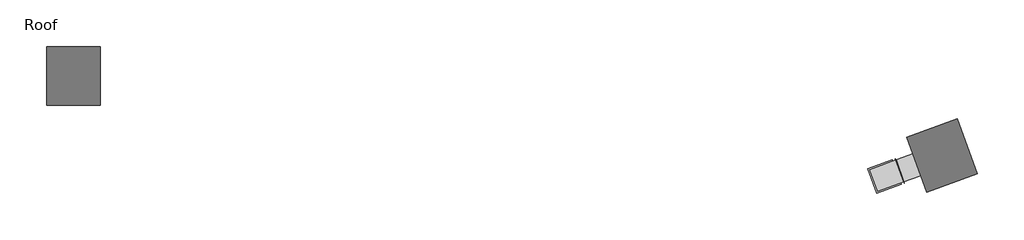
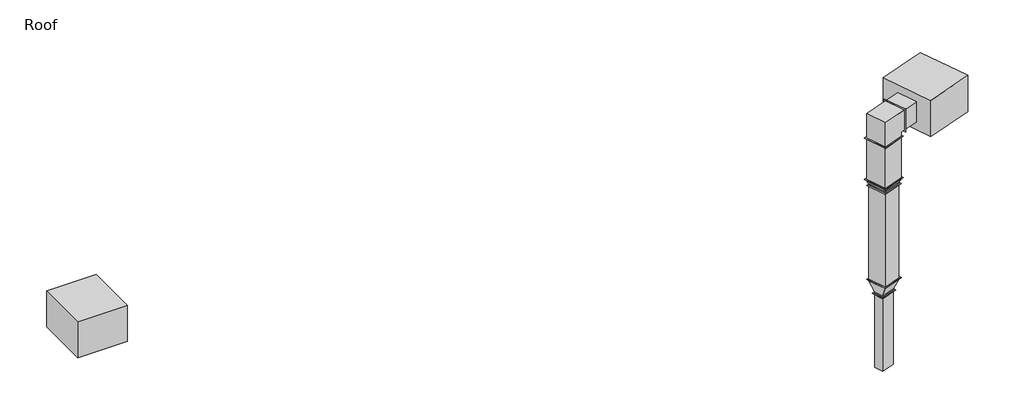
# One storey, incomplete: 4 duct segments, 3 duct fittings, 2 proxies.
"""IFC4 building model written with IfcOpenShell, lengths in millimetres."""

import ifcopenshell
import ifcopenshell.guid

model = None  # the IFC model being written
_history = None  # IfcOwnerHistory: only IFC2X3 demands one
_inside = {}  # id of a spatial element -> (the spatial element, [elements in it])
_under = {}  # id of a project, library or spatial element -> (it, [spatial elements below it])
_declared = {}  # id of a project -> (the project, [libraries it declares])
_typed = {}  # id of a type object -> (the type object, [elements of that type])
_made_of = {}  # id of a material, layer set ... -> (it, [elements and type objects made of it])


def new_model(schema):
    """Start an empty IFC model of exactly this schema.

    Asked for "IFC4X3", IfcOpenShell would pick the latest addendum, in which some entities
    have other attributes; the version numbers below select the first issue.
    IFC2X3 requires an IfcOwnerHistory on every rooted entity: one is made here for all.
    """
    global model, _history
    if schema == "IFC4X3":
        model = ifcopenshell.file(schema_version=(4, 3, 0, 0))
    else:
        model = ifcopenshell.file(schema=schema)
    _inside.clear()
    _under.clear()
    _declared.clear()
    _typed.clear()
    _made_of.clear()
    _history = None
    if model.schema == "IFC2X3":
        org = make("IfcOrganization", Name="unknown")
        user = make(
            "IfcPersonAndOrganization",
            ThePerson=make("IfcPerson", FamilyName="unknown"),
            TheOrganization=org,
        )
        app = make(
            "IfcApplication",
            ApplicationDeveloper=org,
            Version="unknown",
            ApplicationFullName="unknown",
            ApplicationIdentifier="unknown",
        )
        _history = make(
            "IfcOwnerHistory",
            OwningUser=user,
            OwningApplication=app,
            ChangeAction="ADDED",
            CreationDate=0,
        )
    return model


def make(cls, **values):
    """One entity of the class cls with the attributes given. An attribute that is None is left unset."""
    return model.create_entity(
        cls, **{name: value for name, value in values.items() if value is not None}
    )


def rooted(cls, **values):
    """An entity with a GlobalId (a new one), such as an element, a storey or a relation."""
    return make(cls, GlobalId=ifcopenshell.guid.new(), OwnerHistory=_history, **values)


def si_unit(unit_type, name, prefix=None):
    """IfcSIUnit, for example si_unit("LENGTHUNIT", "METRE", prefix="MILLI")."""
    return make("IfcSIUnit", UnitType=unit_type, Prefix=prefix, Name=name)


def assignment(units):
    """IfcUnitAssignment: the units of a project."""
    return None if units is None else make("IfcUnitAssignment", Units=units)


def point(xyz):
    """IfcCartesianPoint."""
    return None if xyz is None else make("IfcCartesianPoint", Coordinates=xyz)


def direction(xyz):
    """IfcDirection."""
    return None if xyz is None else make("IfcDirection", DirectionRatios=xyz)


def frame(location, z_axis=None, x_axis=None):
    """IfcAxis2Placement3D, a coordinate frame: its origin and axes. An axis left out is left unset."""
    return make(
        "IfcAxis2Placement3D",
        Location=point(location),
        Axis=direction(z_axis),
        RefDirection=direction(x_axis),
    )


def origin():
    """The frame at (0, 0, 0) with its axes left unset."""
    return frame((0.0, 0.0, 0.0))


def origin_with_axes():
    """The frame at (0, 0, 0) with the z axis (0, 0, 1) and the x axis (1, 0, 0) written out."""
    return frame((0.0, 0.0, 0.0), z_axis=(0.0, 0.0, 1.0), x_axis=(1.0, 0.0, 0.0))


def place(relative_to, where):
    """IfcLocalPlacement: puts the frame where relative to a parent placement (None: the world)."""
    return make(
        "IfcLocalPlacement", PlacementRelTo=relative_to, RelativePlacement=where
    )


def context(
    kind, dimensions, precision=None, world=None, true_north=None, identifier=None
):
    """IfcGeometricRepresentationContext, for example the 3D "Model" context."""
    return make(
        "IfcGeometricRepresentationContext",
        ContextIdentifier=identifier,
        ContextType=kind,
        CoordinateSpaceDimension=dimensions,
        Precision=precision,
        WorldCoordinateSystem=world,
        TrueNorth=true_north,
    )


def project(units=None, contexts=None):
    """IfcProject with its units and contexts."""
    return rooted(
        "IfcProject",
        Name="project",
        RepresentationContexts=contexts,
        UnitsInContext=assignment(units),
    )


def spatial(cls, under=None, at=None, **own):
    """A site, building, storey or space (cls), placed at a placement, below another one or the project."""
    s = rooted(cls, ObjectPlacement=at, **own)
    if under is not None:
        _under.setdefault(under.id(), (under, []))[1].append(s)
    return s


def polyline(points):
    """IfcPolyline through the points."""
    return make("IfcPolyline", Points=[point(p) for p in points])


def outline(outer, holes=None, kind="AREA"):
    """IfcArbitraryClosedProfileDef: a profile drawn as a closed curve; with holes, ...WithVoids."""
    if holes is None:
        return make("IfcArbitraryClosedProfileDef", ProfileType=kind, OuterCurve=outer)
    return make(
        "IfcArbitraryProfileDefWithVoids",
        ProfileType=kind,
        OuterCurve=outer,
        InnerCurves=holes,
    )


def extrude(swept, where, along, depth):
    """IfcExtrudedAreaSolid: the profile swept, set in the frame where, extruded along a direction by depth."""
    return make(
        "IfcExtrudedAreaSolid",
        SweptArea=swept,
        Position=where,
        ExtrudedDirection=direction(along),
        Depth=depth,
    )


def faces_of(points, faces, orient=None, outer=None):
    """IfcFace entities. A face is a list of loops; a loop is a list of indices into points, from 0.

    orient and outer hold one flag for each loop. By default every Orientation is true, the
    first loop of a face is its IfcFaceOuterBound and the others are IfcFaceBound.
    """
    made = []
    for i, loops in enumerate(faces):
        bounds = []
        for j, loop in enumerate(loops):
            is_outer = j == 0 if outer is None else outer[i][j]
            bounds.append(
                make(
                    "IfcFaceOuterBound" if is_outer else "IfcFaceBound",
                    Bound=make("IfcPolyLoop", Polygon=[points[k] for k in loop]),
                    Orientation=True if orient is None else orient[i][j],
                )
            )
        made.append(make("IfcFace", Bounds=bounds))
    return made


def faceted_brep(points, faces, orient=None, outer=None, voids=None):
    """IfcFacetedBrep: a solid bounded by flat faces; with voids (closed shells), ...WithVoids."""
    shared = [point(p) for p in points]
    hull = make("IfcClosedShell", CfsFaces=faces_of(shared, faces, orient, outer))
    if voids is None:
        return make("IfcFacetedBrep", Outer=hull)
    return make(
        "IfcFacetedBrepWithVoids",
        Outer=hull,
        Voids=[
            make(cls, CfsFaces=faces_of(shared, fs, o, b)) for cls, fs, o, b in voids
        ],
    )


def shape(context_of_items, identifier, shape_type, items):
    """IfcShapeRepresentation: the items that make up one representation, for example the "Body"."""
    return make(
        "IfcShapeRepresentation",
        ContextOfItems=context_of_items,
        RepresentationIdentifier=identifier,
        RepresentationType=shape_type,
        Items=items,
    )


def source(mapping_origin, context_of_items, identifier, shape_type, items):
    """IfcRepresentationMap: a shape defined once, which mapped items show again and again."""
    return make(
        "IfcRepresentationMap",
        MappingOrigin=mapping_origin,
        MappedRepresentation=shape(context_of_items, identifier, shape_type, items),
    )


def transform(
    local_origin,
    x_axis=None,
    y_axis=None,
    z_axis=None,
    scale=None,
    scale2=None,
    scale3=None,
    uniform=True,
):
    """IfcCartesianTransformationOperator3D, or its non-uniform kind. x_axis, y_axis, z_axis: its Axis1, 2, 3."""
    if uniform:
        return make(
            "IfcCartesianTransformationOperator3D",
            Axis1=direction(x_axis),
            Axis2=direction(y_axis),
            LocalOrigin=point(local_origin),
            Scale=scale,
            Axis3=direction(z_axis),
        )
    return make(
        "IfcCartesianTransformationOperator3DnonUniform",
        Axis1=direction(x_axis),
        Axis2=direction(y_axis),
        LocalOrigin=point(local_origin),
        Scale=scale,
        Axis3=direction(z_axis),
        Scale2=scale2,
        Scale3=scale3,
    )


def mapped(mapping_source, mapping_target):
    """IfcMappedItem: shows the shape of a source again, moved by a transform."""
    return make(
        "IfcMappedItem", MappingSource=mapping_source, MappingTarget=mapping_target
    )


def made_of(thing, what):
    """Note that an element or type object is made of a material, layer set ...; save() writes the relation."""
    if what is not None:
        _made_of.setdefault(what.id(), (what, []))[1].append(thing)
    return thing


def element(
    cls,
    number,
    at=None,
    inside=None,
    cuts=None,
    type_object=None,
    material=None,
    context=None,
    identifier="Body",
    shape_type=None,
    held_by="IfcProductDefinitionShape",
    body=None,
    shapes=None,
    **own,
):
    """One element of the class cls, such as IfcWall. Its Tag is "e" and its number.

    at: its placement. inside: the storey or other place that contains it. cuts: it is an
    opening in that element (IfcRelVoidsElement). A single representation is given by context,
    identifier, shape_type and body (its items); several are given by shapes. held_by: the class
    of the entity that holds the representations. save() writes the other relations.
    """
    e = rooted(cls, Tag="e%d" % number, ObjectPlacement=at, **own)
    if body is not None:
        shapes = [shape(context, identifier, shape_type, body)]
    if shapes is not None:
        e.Representation = make(held_by, Representations=shapes)
    if inside is not None:
        _inside.setdefault(inside.id(), (inside, []))[1].append(e)
    if cuts is not None:
        rooted(
            "IfcRelVoidsElement", RelatingBuildingElement=cuts, RelatedOpeningElement=e
        )
    if type_object is not None:
        _typed.setdefault(type_object.id(), (type_object, []))[1].append(e)
    return made_of(e, material)


def aggregate(whole, parts):
    """IfcRelAggregates: a whole, such as a stair, and the parts it consists of."""
    return rooted("IfcRelAggregates", RelatingObject=whole, RelatedObjects=parts)


def save(model, path):
    """Write the relations noted so far, then the file.

    IfcRelAggregates (storeys below a building ...), IfcRelContainedInSpatialStructure (elements
    in a storey), IfcRelDefinesByType, IfcRelAssociatesMaterial and IfcRelDeclares: one each for
    every whole, place, type object, material and project.
    """
    for whole, parts in _under.values():
        aggregate(whole, parts)
    for where, things in _inside.values():
        rooted(
            "IfcRelContainedInSpatialStructure",
            RelatedElements=things,
            RelatingStructure=where,
        )
    for kind, things in _typed.values():
        rooted("IfcRelDefinesByType", RelatedObjects=things, RelatingType=kind)
    for what, things in _made_of.values():
        rooted("IfcRelAssociatesMaterial", RelatedObjects=things, RelatingMaterial=what)
    for by, libraries in _declared.values():
        rooted("IfcRelDeclares", RelatingContext=by, RelatedDefinitions=libraries)
    model.write(path)


def rooftop_ahu_fan_31743b31(model_context):
    return source(origin(), model_context, "Body", "SweptSolid", [
        extrude(outline(polyline([(0.0, 1900.0), (0.0, 0.0), (-1750.0, 0.0), (-1750.0, 1900.0), (0.0, 1900.0)])), origin_with_axes(), (0.0, 0.0, 1.0), 1350.0),
    ])


def dw144_rectangular_square_bend_flanged_standard_92bc3252(model_context):
    return source(origin(), model_context, "Body", "SweptSolid", [
        extrude(outline(polyline([(-530.0, -375.0), (-530.0, 375.0), (-375.0, 375.0), (-375.0, 530.0), (375.0, 530.0), (375.0, -375.0), (-530.0, -375.0)])), frame((0.0, 0.0, -375.0), z_axis=(0.0, 0.0, 1.0), x_axis=(1.0, 0.0, 0.0)), (0.0, 0.0, 1.0), 750.0),
        extrude(outline(polyline([(425.0, 525.0), (-425.0, 525.0), (-425.0, 530.0), (425.0, 530.0), (425.0, 525.0)])), frame((0.0, 0.0, -425.0), z_axis=(0.0, 0.0, 1.0), x_axis=(1.0, 0.0, 0.0)), (0.0, 0.0, 1.0), 850.0),
        extrude(outline(polyline([(-530.0, -425.0), (-530.0, 425.0), (-525.0, 425.0), (-525.0, -425.0), (-530.0, -425.0)])), frame((0.0, 0.0, -425.0), z_axis=(0.0, 0.0, 1.0), x_axis=(1.0, 0.0, 0.0)), (0.0, 0.0, 1.0), 850.0),
    ])


def dw144_rectangular_taper_flanged_standard_8523b065(model_context):
    return source(origin(), model_context, "Body", "SolidModel", [
        extrude(outline(polyline([(230.7106781, 325.0), (230.7106781, -325.0), (175.7106781, -325.0), (175.7106781, 325.0), (230.7106781, 325.0)])), frame((0.0, 0.0, -325.0), z_axis=(0.0, 0.0, 1.0), x_axis=(1.0, 0.0, 0.0)), (0.0, 0.0, 1.0), 650.0),
        extrude(outline(polyline([(55.0, 375.0), (55.0, -375.0), (0.0, -375.0), (0.0, 375.0), (55.0, 375.0)])), frame((0.0, 0.0, -375.0), z_axis=(0.0, 0.0, 1.0), x_axis=(1.0, 0.0, 0.0)), (0.0, 0.0, 1.0), 750.0),
        faceted_brep([(175.7106781, -325.0, 325.0), (175.7106781, -325.0, -325.0), (175.7106781, 325.0, -325.0), (175.7106781, 325.0, 325.0), (55.0, -375.0, 375.0), (55.0, 375.0, 375.0), (55.0, 375.0, -375.0), (55.0, -375.0, -375.0)], [[[0, 1, 2, 3]], [[4, 5, 6, 7]], [[4, 7, 1, 0]], [[7, 6, 2, 1]], [[6, 5, 3, 2]], [[5, 4, 0, 3]]]),
        extrude(outline(polyline([(230.7106781, 375.0), (230.7106781, -375.0), (225.7106781, -375.0), (225.7106781, 375.0), (230.7106781, 375.0)])), frame((0.0, 0.0, -375.0), z_axis=(0.0, 0.0, 1.0), x_axis=(1.0, 0.0, 0.0)), (0.0, 0.0, 1.0), 750.0),
        extrude(outline(polyline([(5.0, 425.0), (5.0, -425.0), (0.0, -425.0), (0.0, 425.0), (5.0, 425.0)])), frame((0.0, 0.0, -425.0), z_axis=(0.0, 0.0, 1.0), x_axis=(1.0, 0.0, 0.0)), (0.0, 0.0, 1.0), 850.0),
    ])


def dw144_rectangular_taper_flanged_standard_d94a413d(model_context):
    return source(origin(), model_context, "Body", "SolidModel", [
        extrude(outline(polyline([(502.3097039, 325.0), (502.3097039, -325.0), (447.3097039, -325.0), (447.3097039, 325.0), (502.3097039, 325.0)])), frame((0.0, 0.0, -325.0), z_axis=(0.0, 0.0, 1.0), x_axis=(1.0, 0.0, 0.0)), (0.0, 0.0, 1.0), 650.0),
        extrude(outline(polyline([(55.0, 162.5), (55.0, -162.5), (0.0, -162.5), (0.0, 162.5), (55.0, 162.5)])), frame((0.0, 0.0, -250.0), z_axis=(0.0, 0.0, 1.0), x_axis=(1.0, 0.0, 0.0)), (0.0, 0.0, 1.0), 500.0),
        faceted_brep([(447.3097039, -325.0, 325.0), (447.3097039, -325.0, -325.0), (447.3097039, 325.0, -325.0), (447.3097039, 325.0, 325.0), (55.0, -162.5, 250.0), (55.0, 162.5, 250.0), (55.0, 162.5, -250.0), (55.0, -162.5, -250.0)], [[[0, 1, 2, 3]], [[4, 5, 6, 7]], [[4, 7, 1, 0]], [[7, 6, 2, 1]], [[6, 5, 3, 2]], [[5, 4, 0, 3]]]),
        extrude(outline(polyline([(502.3097039, 375.0), (502.3097039, -375.0), (497.3097039, -375.0), (497.3097039, 375.0), (502.3097039, 375.0)])), frame((0.0, 0.0, -375.0), z_axis=(0.0, 0.0, 1.0), x_axis=(1.0, 0.0, 0.0)), (0.0, 0.0, 1.0), 750.0),
        extrude(outline(polyline([(5.0, 212.5), (5.0, -212.5), (0.0, -212.5), (0.0, 212.5), (5.0, 212.5)])), frame((0.0, 0.0, -300.0), z_axis=(0.0, 0.0, 1.0), x_axis=(1.0, 0.0, 0.0)), (0.0, 0.0, 1.0), 600.0),
    ])


model = new_model("IFC4")

# Units and contexts
model_context = context("Model", 3, world=origin())
ifc_project = project(units=[si_unit("LENGTHUNIT", "METRE", prefix="MILLI")], contexts=[model_context])

# Site, building, storey
site = spatial("IfcSite", under=ifc_project)
building = spatial("IfcBuilding", under=site)
storey = spatial("IfcBuildingStorey", under=building, Name="Roof", Elevation=11700.0)

# Proxies
placement = place(None, origin())
rooftop_ahu_fan_shape = rooftop_ahu_fan_31743b31(model_context)
element("IfcBuildingElementProxy", 1, Name="Rooftop AHU Fan : Forward Curved Fan - 3,300 L/s", ObjectType="Rooftop AHU Fan : Forward Curved Fan - 3,300 L/s", at=placement, inside=storey, context=model_context, shape_type="MappedRepresentation", body=[
    mapped(rooftop_ahu_fan_shape, transform((12314.2000024, 10638.8000005, 11825.0), x_axis=(1.0, 0.0, 0.0), y_axis=(0.0, 1.0, 0.0), z_axis=(0.0, 0.0, 1.0))),
])
element("IfcBuildingElementProxy", 2, Name="Rooftop AHU Fan : Forward Curved Fan - 3,300 L/s", ObjectType="Rooftop AHU Fan : Forward Curved Fan - 3,300 L/s", at=placement, inside=storey, context=model_context, shape_type="MappedRepresentation", body=[
    mapped(rooftop_ahu_fan_shape, transform((40761.6871642, 8411.3303076, 11825.0), x_axis=(0.939692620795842, 0.34202014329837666, 0.0), y_axis=(-0.34202014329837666, 0.939692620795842, 0.0), z_axis=(0.0, 0.0, 1.0))),
])

# Duct fittings
dw144_rectangular_square_bend_flanged_standard_shape = dw144_rectangular_square_bend_flanged_standard_92bc3252(model_context)
element("IfcDuctFitting", 3, ObjectType="DW144 Rectangular Square Bend - Flanged : Standard", at=placement, inside=storey, context=model_context, shape_type="MappedRepresentation", body=[
    mapped(dw144_rectangular_square_bend_flanged_standard_shape, transform((37749.926358, 8326.1079054, 12500.0), x_axis=(0.0, 0.0, 1.0), y_axis=(0.9396926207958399, 0.34202014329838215, 0.0), z_axis=(-0.34202014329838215, 0.9396926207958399, 0.0))),
])
dw144_rectangular_taper_flanged_standard_shape = dw144_rectangular_taper_flanged_standard_8523b065(model_context)
element("IfcDuctFitting", 4, ObjectType="DW144 Rectangular Taper - Flanged : Standard", at=placement, inside=storey, context=model_context, shape_type="MappedRepresentation", body=[
    mapped(dw144_rectangular_taper_flanged_standard_shape, transform((37749.926358, 8326.1079054, 10423.0), x_axis=(0.0, 0.0, -1.0), y_axis=(-0.3420201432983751, 0.9396926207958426, 0.0), z_axis=(0.9396926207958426, 0.3420201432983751, 0.0))),
])
dw144_rectangular_taper_flanged_standard_2_shape = dw144_rectangular_taper_flanged_standard_d94a413d(model_context)
element("IfcDuctFitting", 5, ObjectType="DW144 Rectangular Taper - Flanged : Standard", at=placement, inside=storey, context=model_context, shape_type="MappedRepresentation", body=[
    mapped(dw144_rectangular_taper_flanged_standard_2_shape, transform((37749.926358, 8326.1079054, 6177.0861383), x_axis=(0.0, 0.0, 1.0), y_axis=(0.3420201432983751, -0.9396926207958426, 0.0), z_axis=(0.9396926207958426, 0.3420201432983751, 0.0))),
])

# Duct segments
element("IfcDuctSegment", 6, ObjectType="DW144 Flanged Square Bend / Tee", at=placement, inside=storey, context=model_context, shape_type="SweptSolid", body=[
    extrude(outline(polyline([(37570.5814761, 8087.9028187), (37459.4249295, 8393.3029204), (37929.2712399, 8564.3129921), (38040.4277865, 8258.9128903), (37570.5814761, 8087.9028187)])), frame((0.0, 0.0, 3410.0), z_axis=(0.0, 0.0, 1.0), x_axis=(1.0, 0.0, 0.0)), (0.0, 0.0, 1.0), 2767.0861383),
])
element("IfcDuctSegment", 7, ObjectType="DW144 Flanged Square Bend / Tee", at=placement, inside=storey, context=model_context, shape_type="SweptSolid", body=[
    extrude(outline(polyline([(37333.3697096, 8520.3514605), (37944.1699132, 8742.6645537), (38166.4830063, 8131.8643502), (37555.6828028, 7909.551257), (37333.3697096, 8520.3514605)])), frame((0.0, 0.0, 6679.3958421), z_axis=(0.0, 0.0, 1.0), x_axis=(1.0, 0.0, 0.0)), (0.0, 0.0, 1.0), 3512.8934797),
])
element("IfcDuctSegment", 8, ObjectType="DW144 Flanged Square Bend / Tee", at=placement, inside=storey, context=model_context, shape_type="SweptSolid", body=[
    extrude(outline(polyline([(37269.2840714, 8550.2350844), (37974.053537, 8806.7501919), (38230.5686445, 8101.9807263), (37525.7991789, 7845.4656188), (37269.2840714, 8550.2350844)])), frame((0.0, 0.0, 10423.0), z_axis=(0.0, 0.0, 1.0), x_axis=(1.0, 0.0, 0.0)), (0.0, 0.0, 1.0), 1547.0),
])
element("IfcDuctSegment", 9, ObjectType="DW144 Flanged Square Bend / Tee", at=placement, inside=storey, context=model_context, shape_type="SweptSolid", body=[
    extrude(outline(polyline([(38376.2210007, 8154.9938485), (38119.7058933, 8859.7633141), (38664.048388, 9057.8877794), (38920.5634955, 8353.1183138), (38376.2210007, 8154.9938485)])), frame((0.0, 0.0, 12125.0), z_axis=(0.0, 0.0, 1.0), x_axis=(1.0, 0.0, 0.0)), (0.0, 0.0, 1.0), 750.0),
])

save(model, "model.ifc")
